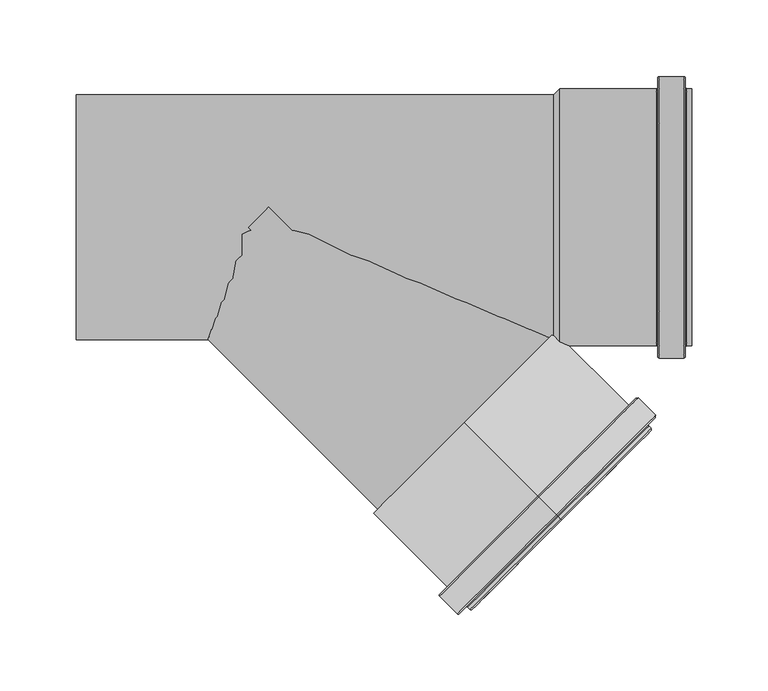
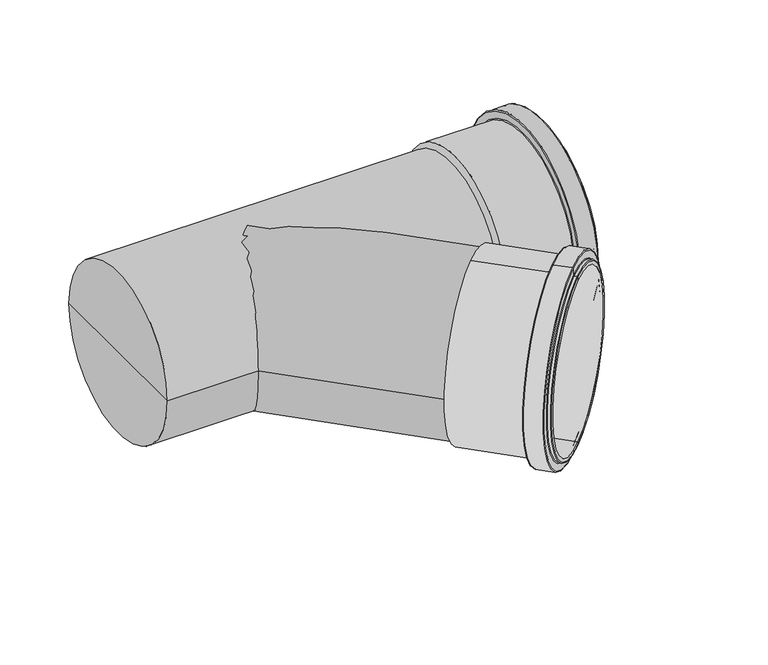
"""IFC4 building model written with IfcOpenShell, lengths in millimetres: pipe fitting geometry, MarleyPlumbingAndDrainage_PipeFitting_dBlueEqualBranch_VTR : VTR-160-160-45D - 160mm - Blue."""

import ifcopenshell
import ifcopenshell.guid

model = None  # the IFC model being written
_history = None  # IfcOwnerHistory: only IFC2X3 demands one
_inside = {}  # id of a spatial element -> (the spatial element, [elements in it])
_under = {}  # id of a project, library or spatial element -> (it, [spatial elements below it])
_declared = {}  # id of a project -> (the project, [libraries it declares])
_typed = {}  # id of a type object -> (the type object, [elements of that type])
_made_of = {}  # id of a material, layer set ... -> (it, [elements and type objects made of it])


def new_model(schema):
    """Start an empty IFC model of exactly this schema.

    Asked for "IFC4X3", IfcOpenShell would pick the latest addendum, in which some entities
    have other attributes; the version numbers below select the first issue.
    IFC2X3 requires an IfcOwnerHistory on every rooted entity: one is made here for all.
    """
    global model, _history
    if schema == "IFC4X3":
        model = ifcopenshell.file(schema_version=(4, 3, 0, 0))
    else:
        model = ifcopenshell.file(schema=schema)
    _inside.clear()
    _under.clear()
    _declared.clear()
    _typed.clear()
    _made_of.clear()
    _history = None
    if model.schema == "IFC2X3":
        org = make("IfcOrganization", Name="unknown")
        user = make(
            "IfcPersonAndOrganization",
            ThePerson=make("IfcPerson", FamilyName="unknown"),
            TheOrganization=org,
        )
        app = make(
            "IfcApplication",
            ApplicationDeveloper=org,
            Version="unknown",
            ApplicationFullName="unknown",
            ApplicationIdentifier="unknown",
        )
        _history = make(
            "IfcOwnerHistory",
            OwningUser=user,
            OwningApplication=app,
            ChangeAction="ADDED",
            CreationDate=0,
        )
    return model


def make(cls, **values):
    """One entity of the class cls with the attributes given. An attribute that is None is left unset."""
    return model.create_entity(
        cls, **{name: value for name, value in values.items() if value is not None}
    )


def rooted(cls, **values):
    """An entity with a GlobalId (a new one), such as an element, a storey or a relation."""
    return make(cls, GlobalId=ifcopenshell.guid.new(), OwnerHistory=_history, **values)


def si_unit(unit_type, name, prefix=None):
    """IfcSIUnit, for example si_unit("LENGTHUNIT", "METRE", prefix="MILLI")."""
    return make("IfcSIUnit", UnitType=unit_type, Prefix=prefix, Name=name)


def assignment(units):
    """IfcUnitAssignment: the units of a project."""
    return None if units is None else make("IfcUnitAssignment", Units=units)


def point(xyz):
    """IfcCartesianPoint."""
    return None if xyz is None else make("IfcCartesianPoint", Coordinates=xyz)


def direction(xyz):
    """IfcDirection."""
    return None if xyz is None else make("IfcDirection", DirectionRatios=xyz)


def frame(location, z_axis=None, x_axis=None):
    """IfcAxis2Placement3D, a coordinate frame: its origin and axes. An axis left out is left unset."""
    return make(
        "IfcAxis2Placement3D",
        Location=point(location),
        Axis=direction(z_axis),
        RefDirection=direction(x_axis),
    )


def frame_2d(location, x_axis=None):
    """IfcAxis2Placement2D, a coordinate frame in the plane: its origin and x axis."""
    return make(
        "IfcAxis2Placement2D", Location=point(location), RefDirection=direction(x_axis)
    )


def origin():
    """The frame at (0, 0, 0) with its axes left unset."""
    return frame((0.0, 0.0, 0.0))


def origin_2d():
    """The frame at (0, 0) in the plane with its x axis left unset."""
    return frame_2d((0.0, 0.0))


def place(relative_to, where):
    """IfcLocalPlacement: puts the frame where relative to a parent placement (None: the world)."""
    return make(
        "IfcLocalPlacement", PlacementRelTo=relative_to, RelativePlacement=where
    )


def context(
    kind, dimensions, precision=None, world=None, true_north=None, identifier=None
):
    """IfcGeometricRepresentationContext, for example the 3D "Model" context."""
    return make(
        "IfcGeometricRepresentationContext",
        ContextIdentifier=identifier,
        ContextType=kind,
        CoordinateSpaceDimension=dimensions,
        Precision=precision,
        WorldCoordinateSystem=world,
        TrueNorth=true_north,
    )


def project(units=None, contexts=None):
    """IfcProject with its units and contexts."""
    return rooted(
        "IfcProject",
        Name="project",
        RepresentationContexts=contexts,
        UnitsInContext=assignment(units),
    )


def spatial(cls, under=None, at=None, **own):
    """A site, building, storey or space (cls), placed at a placement, below another one or the project."""
    s = rooted(cls, ObjectPlacement=at, **own)
    if under is not None:
        _under.setdefault(under.id(), (under, []))[1].append(s)
    return s


def polyline(points):
    """IfcPolyline through the points."""
    return make("IfcPolyline", Points=[point(p) for p in points])


def circle_curve(where, radius):
    """IfcCircle in the frame where."""
    return make("IfcCircle", Position=where, Radius=radius)


def ellipse_curve(where, semi_axis1, semi_axis2):
    """IfcEllipse in the frame where."""
    return make(
        "IfcEllipse", Position=where, SemiAxis1=semi_axis1, SemiAxis2=semi_axis2
    )


def trimmed(basis, trim1, trim2, sense, master):
    """IfcTrimmedCurve: the piece of a basis curve between two trims."""
    return make(
        "IfcTrimmedCurve",
        BasisCurve=basis,
        Trim1=trim1,
        Trim2=trim2,
        SenseAgreement=sense,
        MasterRepresentation=master,
    )


def segment(curve, same_sense, transition):
    """IfcCompositeCurveSegment."""
    return make(
        "IfcCompositeCurveSegment",
        Transition=transition,
        SameSense=same_sense,
        ParentCurve=curve,
    )


def composite_curve(segments, self_intersect=None):
    """IfcCompositeCurve: segments joined end to end."""
    return make("IfcCompositeCurve", Segments=segments, SelfIntersect=self_intersect)


def outline(outer, holes=None, kind="AREA"):
    """IfcArbitraryClosedProfileDef: a profile drawn as a closed curve; with holes, ...WithVoids."""
    if holes is None:
        return make("IfcArbitraryClosedProfileDef", ProfileType=kind, OuterCurve=outer)
    return make(
        "IfcArbitraryProfileDefWithVoids",
        ProfileType=kind,
        OuterCurve=outer,
        InnerCurves=holes,
    )


def extrude(swept, where, along, depth):
    """IfcExtrudedAreaSolid: the profile swept, set in the frame where, extruded along a direction by depth."""
    return make(
        "IfcExtrudedAreaSolid",
        SweptArea=swept,
        Position=where,
        ExtrudedDirection=direction(along),
        Depth=depth,
    )


def shape(context_of_items, identifier, shape_type, items):
    """IfcShapeRepresentation: the items that make up one representation, for example the "Body"."""
    return make(
        "IfcShapeRepresentation",
        ContextOfItems=context_of_items,
        RepresentationIdentifier=identifier,
        RepresentationType=shape_type,
        Items=items,
    )


def source(mapping_origin, context_of_items, identifier, shape_type, items):
    """IfcRepresentationMap: a shape defined once, which mapped items show again and again."""
    return make(
        "IfcRepresentationMap",
        MappingOrigin=mapping_origin,
        MappedRepresentation=shape(context_of_items, identifier, shape_type, items),
    )


def transform(
    local_origin,
    x_axis=None,
    y_axis=None,
    z_axis=None,
    scale=None,
    scale2=None,
    scale3=None,
    uniform=True,
):
    """IfcCartesianTransformationOperator3D, or its non-uniform kind. x_axis, y_axis, z_axis: its Axis1, 2, 3."""
    if uniform:
        return make(
            "IfcCartesianTransformationOperator3D",
            Axis1=direction(x_axis),
            Axis2=direction(y_axis),
            LocalOrigin=point(local_origin),
            Scale=scale,
            Axis3=direction(z_axis),
        )
    return make(
        "IfcCartesianTransformationOperator3DnonUniform",
        Axis1=direction(x_axis),
        Axis2=direction(y_axis),
        LocalOrigin=point(local_origin),
        Scale=scale,
        Axis3=direction(z_axis),
        Scale2=scale2,
        Scale3=scale3,
    )


def mapped(mapping_source, mapping_target):
    """IfcMappedItem: shows the shape of a source again, moved by a transform."""
    return make(
        "IfcMappedItem", MappingSource=mapping_source, MappingTarget=mapping_target
    )


def made_of(thing, what):
    """Note that an element or type object is made of a material, layer set ...; save() writes the relation."""
    if what is not None:
        _made_of.setdefault(what.id(), (what, []))[1].append(thing)
    return thing


def element(
    cls,
    number,
    at=None,
    inside=None,
    cuts=None,
    type_object=None,
    material=None,
    context=None,
    identifier="Body",
    shape_type=None,
    held_by="IfcProductDefinitionShape",
    body=None,
    shapes=None,
    **own,
):
    """One element of the class cls, such as IfcWall. Its Tag is "e" and its number.

    at: its placement. inside: the storey or other place that contains it. cuts: it is an
    opening in that element (IfcRelVoidsElement). A single representation is given by context,
    identifier, shape_type and body (its items); several are given by shapes. held_by: the class
    of the entity that holds the representations. save() writes the other relations.
    """
    e = rooted(cls, Tag="e%d" % number, ObjectPlacement=at, **own)
    if body is not None:
        shapes = [shape(context, identifier, shape_type, body)]
    if shapes is not None:
        e.Representation = make(held_by, Representations=shapes)
    if inside is not None:
        _inside.setdefault(inside.id(), (inside, []))[1].append(e)
    if cuts is not None:
        rooted(
            "IfcRelVoidsElement", RelatingBuildingElement=cuts, RelatedOpeningElement=e
        )
    if type_object is not None:
        _typed.setdefault(type_object.id(), (type_object, []))[1].append(e)
    return made_of(e, material)


def aggregate(whole, parts):
    """IfcRelAggregates: a whole, such as a stair, and the parts it consists of."""
    return rooted("IfcRelAggregates", RelatingObject=whole, RelatedObjects=parts)


def save(model, path):
    """Write the relations noted so far, then the file.

    IfcRelAggregates (storeys below a building ...), IfcRelContainedInSpatialStructure (elements
    in a storey), IfcRelDefinesByType, IfcRelAssociatesMaterial and IfcRelDeclares: one each for
    every whole, place, type object, material and project.
    """
    for whole, parts in _under.values():
        aggregate(whole, parts)
    for where, things in _inside.values():
        rooted(
            "IfcRelContainedInSpatialStructure",
            RelatedElements=things,
            RelatingStructure=where,
        )
    for kind, things in _typed.values():
        rooted("IfcRelDefinesByType", RelatedObjects=things, RelatingType=kind)
    for what, things in _made_of.values():
        rooted("IfcRelAssociatesMaterial", RelatedObjects=things, RelatingMaterial=what)
    for by, libraries in _declared.values():
        rooted("IfcRelDeclares", RelatingContext=by, RelatedDefinitions=libraries)
    model.write(path)


def plane_surface(at):
    """IfcPlane: the flat surface through the origin of the frame at, square to its z axis."""
    return make("IfcPlane", Position=at)


def cylinder_surface(at, radius):
    """IfcCylindricalSurface: all points at the distance radius from the z axis of the frame at."""
    return make("IfcCylindricalSurface", Position=at, Radius=radius)


def revolved_surface(curve, axis_point, axis_direction):
    """IfcSurfaceOfRevolution: the curve turned about the line through axis_point along axis_direction."""
    return make(
        "IfcSurfaceOfRevolution",
        SweptCurve=make("IfcArbitraryOpenProfileDef", ProfileType="CURVE", Curve=curve),
        AxisPosition=make("IfcAxis1Placement", Location=point(axis_point), Axis=direction(axis_direction)),
    )


def advanced_brep(points, edges, surfaces, faces):
    """IfcAdvancedBrep: a solid bounded by faces that lie on surfaces and meet in shared edges.

    An edge is (start, end): straight between two places in points (the first is 0);
    or (start, end, curve); or (start, end, curve, False) where it runs against its curve.
    A face is (place in surfaces, loops), or (place, loops, False) where it looks against
    its surface's normal. A loop lists edges by number (the first is 1), with a minus sign
    where the edge is run from its end to its start. The first loop is the outer one.
    """
    corners = [point(p) for p in points]
    vertices = [make("IfcVertexPoint", VertexGeometry=c) for c in corners]
    made = []
    for start, end, *more in edges:
        made.append(
            make(
                "IfcEdgeCurve",
                EdgeStart=vertices[start],
                EdgeEnd=vertices[end],
                EdgeGeometry=more[0] if more else make("IfcPolyline", Points=[corners[start], corners[end]]),
                SameSense=more[1] if len(more) > 1 else True,
            )
        )
    hull = []
    for where, loops, *sense in faces:
        bounds = []
        for j, loop in enumerate(loops):
            ring = [make("IfcOrientedEdge", EdgeElement=made[abs(k) - 1], Orientation=k > 0) for k in loop]
            bounds.append(
                make(
                    "IfcFaceOuterBound" if j == 0 else "IfcFaceBound",
                    Bound=make("IfcEdgeLoop", EdgeList=ring),
                    Orientation=True,
                )
            )
        hull.append(make("IfcAdvancedFace", Bounds=bounds, FaceSurface=surfaces[where], SameSense=sense[0] if sense else True))
    return make("IfcAdvancedBrep", Outer=make("IfcClosedShell", CfsFaces=hull))


def pipe_fitting_3ffe21c8(model_context):
    return source(origin(), model_context, "Body", "SolidModel", [
        advanced_brep(
        [(119.5249066, -134.3502884, -84.0), (119.5249066, -134.3502884, 84.0), (119.5249066, -134.3502884, 80.0), (119.5249066, -134.3502884, -80.0), (167.6081677, -182.4335495, -84.0), (167.6081677, -182.4335495, 84.0), (167.6081677, -182.4335495, -91.0), (167.6081677, -182.4335495, 91.0), (179.628983, -194.4543648, -92.0), (179.628983, -194.4543648, 92.0), (168.3152745, -183.1406563, 92.0), (168.3152745, -183.1406563, -92.0), (180.3360898, -195.1614716, -85.0), (180.3360898, -195.1614716, 85.0), (180.3360898, -195.1614716, 91.0), (180.3360898, -195.1614716, -91.0), (182.4574101, -197.282792, -84.0), (182.4574101, -197.282792, 84.0), (181.0431966, -195.8685784, 84.0), (181.0431966, -195.8685784, -84.0), (183.1645169, -197.9898987, -80.0), (183.1645169, -197.9898987, 80.0), (183.1645169, -197.9898987, 83.0), (183.1645169, -197.9898987, -83.0)],
        [
            (0, 1, circle_curve(frame((119.5249066, -134.3502884, 0.0), z_axis=(-0.7071067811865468, 0.7071067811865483, 0.0), x_axis=(0.0, 0.0, 1.0000000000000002)), 84.0)),
            (1, 2),
            (2, 3, circle_curve(frame((119.5249066, -134.3502884, 0.0), z_axis=(0.7071067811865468, -0.7071067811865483, 0.0), x_axis=(0.0, 0.0, 1.0000000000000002)), 80.0)),
            (3, 0),
            (1, 0, circle_curve(frame((119.5249066, -134.3502884, 0.0), z_axis=(-0.7071067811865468, 0.7071067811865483, 0.0), x_axis=(0.0, 0.0, 1.0000000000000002)), 84.0)),
            (3, 2, circle_curve(frame((119.5249066, -134.3502884, 0.0), z_axis=(0.7071067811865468, -0.7071067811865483, 0.0), x_axis=(0.0, 0.0, 1.0000000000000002)), 80.0)),
            (4, 5, circle_curve(frame((167.6081677, -182.4335495, 0.0), z_axis=(-0.7071067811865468, 0.7071067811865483, 0.0), x_axis=(0.0, 0.0, 1.0000000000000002)), 84.0)),
            (5, 1),
            (0, 4),
            (5, 4, circle_curve(frame((167.6081677, -182.4335495, 0.0), z_axis=(-0.7071067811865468, 0.7071067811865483, 0.0), x_axis=(0.0, 0.0, 1.0000000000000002)), 84.0)),
            (6, 7, circle_curve(frame((167.6081677, -182.4335495, 0.0), z_axis=(-0.7071067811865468, 0.7071067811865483, 0.0), x_axis=(0.0, 0.0, 1.0000000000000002)), 91.0)),
            (7, 5),
            (4, 6),
            (7, 6, circle_curve(frame((167.6081677, -182.4335495, 0.0), z_axis=(-0.7071067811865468, 0.7071067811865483, 0.0), x_axis=(0.0, 0.0, 1.0000000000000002)), 91.0)),
            (8, 9, circle_curve(frame((179.628983, -194.4543648, 0.0), z_axis=(-0.7071067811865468, 0.7071067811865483, 0.0), x_axis=(0.0, 0.0, 1.0000000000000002)), 92.0)),
            (9, 10),
            (10, 11, circle_curve(frame((168.3152745, -183.1406563, 0.0), z_axis=(0.7071067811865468, -0.7071067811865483, 0.0), x_axis=(0.0, 0.0, 1.0000000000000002)), 92.0)),
            (11, 8),
            (9, 8, circle_curve(frame((179.628983, -194.4543648, 0.0), z_axis=(-0.7071067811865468, 0.7071067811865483, 0.0), x_axis=(0.0, 0.0, 1.0000000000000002)), 92.0)),
            (11, 10, circle_curve(frame((168.3152745, -183.1406563, 0.0), z_axis=(0.7071067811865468, -0.7071067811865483, 0.0), x_axis=(0.0, 0.0, 1.0000000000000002)), 92.0)),
            (12, 13, circle_curve(frame((180.3360898, -195.1614716, 0.0), z_axis=(-0.7071067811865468, 0.7071067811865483, 0.0), x_axis=(0.0, 0.0, 1.0000000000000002)), 85.0)),
            (13, 14),
            (14, 15, circle_curve(frame((180.3360898, -195.1614716, 0.0), z_axis=(0.7071067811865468, -0.7071067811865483, 0.0), x_axis=(0.0, 0.0, 1.0000000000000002)), 91.0)),
            (15, 12),
            (13, 12, circle_curve(frame((180.3360898, -195.1614716, 0.0), z_axis=(-0.7071067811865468, 0.7071067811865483, 0.0), x_axis=(0.0, 0.0, 1.0000000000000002)), 85.0)),
            (15, 14, circle_curve(frame((180.3360898, -195.1614716, 0.0), z_axis=(0.7071067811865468, -0.7071067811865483, 0.0), x_axis=(0.0, 0.0, 1.0000000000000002)), 91.0)),
            (16, 17, circle_curve(frame((182.4574101, -197.282792, 0.0), z_axis=(-0.7071067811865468, 0.7071067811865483, 0.0), x_axis=(0.0, 0.0, 1.0000000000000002)), 84.0)),
            (17, 18),
            (18, 19, circle_curve(frame((181.0431966, -195.8685784, 0.0), z_axis=(0.7071067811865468, -0.7071067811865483, 0.0), x_axis=(0.0, 0.0, 1.0000000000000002)), 84.0)),
            (19, 16),
            (17, 16, circle_curve(frame((182.4574101, -197.282792, 0.0), z_axis=(-0.7071067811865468, 0.7071067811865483, 0.0), x_axis=(0.0, 0.0, 1.0000000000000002)), 84.0)),
            (19, 18, circle_curve(frame((181.0431966, -195.8685784, 0.0), z_axis=(0.7071067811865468, -0.7071067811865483, 0.0), x_axis=(0.0, 0.0, 1.0000000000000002)), 84.0)),
            (20, 21, circle_curve(frame((183.1645169, -197.9898987, 0.0), z_axis=(-0.7071067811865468, 0.7071067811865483, 0.0), x_axis=(0.0, 0.0, 1.0000000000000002)), 80.0)),
            (21, 22),
            (22, 23, circle_curve(frame((183.1645169, -197.9898987, 0.0), z_axis=(0.7071067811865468, -0.7071067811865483, 0.0), x_axis=(0.0, 0.0, 1.0000000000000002)), 83.0)),
            (23, 20),
            (21, 20, circle_curve(frame((183.1645169, -197.9898987, 0.0), z_axis=(-0.7071067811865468, 0.7071067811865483, 0.0), x_axis=(0.0, 0.0, 1.0000000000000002)), 80.0)),
            (23, 22, circle_curve(frame((183.1645169, -197.9898987, 0.0), z_axis=(0.7071067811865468, -0.7071067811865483, 0.0), x_axis=(0.0, 0.0, 1.0000000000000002)), 83.0)),
            (2, 21),
            (20, 3),
            (10, 7, circle_curve(frame((168.3152745, -183.1406563, 91.0), z_axis=(-0.7071067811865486, -0.707106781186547, 0.0), x_axis=(0.49999999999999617, -0.49999999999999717, 0.7071067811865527)), 1.0)),
            (6, 11, circle_curve(frame((168.3152745, -183.1406563, -91.0), z_axis=(-0.7071067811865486, -0.707106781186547, 0.0), x_axis=(0.5000000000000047, -0.5000000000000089, -0.7071067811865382)), 1.0)),
            (14, 9, circle_curve(frame((179.628983, -194.4543648, 91.0), z_axis=(-0.7071067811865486, -0.707106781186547, 0.0), x_axis=(0.49999999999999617, -0.49999999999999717, 0.7071067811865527)), 1.0)),
            (8, 15, circle_curve(frame((179.628983, -194.4543648, -91.0), z_axis=(-0.7071067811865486, -0.707106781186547, 0.0), x_axis=(0.5000000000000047, -0.5000000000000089, -0.7071067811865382)), 1.0)),
            (18, 13, circle_curve(frame((181.0431966, -195.8685784, 85.0), z_axis=(0.7071067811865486, 0.707106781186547, 0.0), x_axis=(0.49999999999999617, -0.49999999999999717, 0.7071067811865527)), 1.0)),
            (12, 19, circle_curve(frame((181.0431966, -195.8685784, -85.0), z_axis=(0.7071067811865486, 0.707106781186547, 0.0), x_axis=(0.5000000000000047, -0.5000000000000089, -0.7071067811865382)), 1.0)),
            (22, 17, circle_curve(frame((182.4574101, -197.282792, 83.0), z_axis=(-0.7071067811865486, -0.707106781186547, 0.0), x_axis=(0.49999999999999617, -0.49999999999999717, 0.7071067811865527)), 1.0)),
            (16, 23, circle_curve(frame((182.4574101, -197.282792, -83.0), z_axis=(-0.7071067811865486, -0.707106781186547, 0.0), x_axis=(0.5000000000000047, -0.5000000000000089, -0.7071067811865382)), 1.0)),
        ],
        [
            plane_surface(frame((119.5249066, -134.3502884, 0.0), z_axis=(-0.7071067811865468, 0.7071067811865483, 0.0), x_axis=(0.0, 0.0, 1.0))),
            cylinder_surface(frame((235.4904187, -250.3158005, 0.0), z_axis=(0.7071067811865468, -0.7071067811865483, 0.0), x_axis=(0.0, 0.0, 1.0000000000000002)), 84.0),
            plane_surface(frame((167.6081677, -182.4335495, 0.0), z_axis=(-0.7071067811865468, 0.7071067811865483, 0.0), x_axis=(0.0, 0.0, 1.0))),
            cylinder_surface(frame((235.4904187, -250.3158005, 0.0), z_axis=(0.7071067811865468, -0.7071067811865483, 0.0), x_axis=(0.0, 0.0, 1.0000000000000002)), 92.0),
            plane_surface(frame((180.3360898, -195.1614716, 0.0), z_axis=(0.7071067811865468, -0.7071067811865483, 0.0), x_axis=(0.0, 0.0, 1.0))),
            plane_surface(frame((183.1645169, -197.9898987, 0.0), z_axis=(0.7071067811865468, -0.7071067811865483, 0.0), x_axis=(0.0, 0.0, 1.0))),
            revolved_surface(polyline([(183.16451690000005, -197.98989869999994, 80.00000000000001), (119.52490660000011, -134.35028839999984, 80.00000000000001)]), (235.4904187, -250.3158005, 0.0), (0.7071067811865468, -0.7071067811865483, 0.0)),
            revolved_surface(trimmed(ellipse_curve(frame((168.3152745, -183.1406563, 91.0), z_axis=(0.7071067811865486, 0.707106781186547, 0.0), x_axis=(0.49999999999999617, -0.49999999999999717, 0.7071067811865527)), 1.0, 1.0), [point((167.6081677, -182.4335495, 91.0))], [point((168.3152745, -183.1406563, 92.0))], True, "CARTESIAN"), (235.4904187, -250.3158005, 0.0), (0.7071067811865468, -0.7071067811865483, 0.0)),
            revolved_surface(trimmed(ellipse_curve(frame((168.3152745, -183.1406563, 91.0), z_axis=(0.7071067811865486, 0.707106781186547, 0.0), x_axis=(0.49999999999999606, -0.49999999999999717, 0.7071067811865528)), 1.0, 1.0), [point((167.6081677, -182.4335495, 91.0))], [point((168.3152745, -183.1406563, 92.0))], True, "CARTESIAN"), (235.4904187, -250.3158005, 0.0), (0.7071067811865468, -0.7071067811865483, 0.0)),
            revolved_surface(trimmed(ellipse_curve(frame((179.628983, -194.4543648, 91.0), z_axis=(0.7071067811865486, 0.707106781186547, 0.0), x_axis=(0.49999999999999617, -0.49999999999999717, 0.7071067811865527)), 1.0, 1.0), [point((179.628983, -194.4543648, 92.0))], [point((180.3360898, -195.1614716, 91.0))], True, "CARTESIAN"), (235.4904187, -250.3158005, 0.0), (0.7071067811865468, -0.7071067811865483, 0.0)),
            revolved_surface(trimmed(ellipse_curve(frame((179.628983, -194.4543648, 91.0), z_axis=(0.7071067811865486, 0.707106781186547, 0.0), x_axis=(0.49999999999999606, -0.49999999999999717, 0.7071067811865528)), 1.0, 1.0), [point((179.628983, -194.4543648, 92.0))], [point((180.3360898, -195.1614716, 91.0))], True, "CARTESIAN"), (235.4904187, -250.3158005, 0.0), (0.7071067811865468, -0.7071067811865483, 0.0)),
            revolved_surface(trimmed(ellipse_curve(frame((181.0431966, -195.8685784, 85.0), z_axis=(-0.7071067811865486, -0.707106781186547, 0.0), x_axis=(0.49999999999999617, -0.49999999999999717, 0.7071067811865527)), 1.0, 1.0), [point((180.3360898, -195.1614716, 85.0))], [point((181.0431966, -195.8685784, 84.0))], True, "CARTESIAN"), (235.4904187, -250.3158005, 0.0), (0.7071067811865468, -0.7071067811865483, 0.0)),
            revolved_surface(trimmed(ellipse_curve(frame((181.0431966, -195.8685784, 85.0), z_axis=(-0.7071067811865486, -0.707106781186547, 0.0), x_axis=(0.49999999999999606, -0.49999999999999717, 0.7071067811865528)), 1.0, 1.0), [point((180.3360898, -195.1614716, 85.0))], [point((181.0431966, -195.8685784, 84.0))], True, "CARTESIAN"), (235.4904187, -250.3158005, 0.0), (0.7071067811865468, -0.7071067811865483, 0.0)),
            revolved_surface(trimmed(ellipse_curve(frame((182.4574101, -197.282792, 83.0), z_axis=(0.7071067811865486, 0.707106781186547, 0.0), x_axis=(0.49999999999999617, -0.49999999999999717, 0.7071067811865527)), 1.0, 1.0), [point((182.4574101, -197.282792, 84.0))], [point((183.1645169, -197.9898987, 83.0))], True, "CARTESIAN"), (235.4904187, -250.3158005, 0.0), (0.7071067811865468, -0.7071067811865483, 0.0)),
            revolved_surface(trimmed(ellipse_curve(frame((182.4574101, -197.282792, 83.0), z_axis=(0.7071067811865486, 0.707106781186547, 0.0), x_axis=(0.49999999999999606, -0.49999999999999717, 0.7071067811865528)), 1.0, 1.0), [point((182.4574101, -197.282792, 84.0))], [point((183.1645169, -197.9898987, 83.0))], True, "CARTESIAN"), (235.4904187, -250.3158005, 0.0), (0.7071067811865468, -0.7071067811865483, 0.0)),
        ],
        [
            (0, [[1, 2, 3, 4]]),
            (0, [[5, -4, 6, -2]]),
            (1, [[7, 8, -1, 9]]),
            (1, [[10, -9, -5, -8]]),
            (2, [[11, 12, -7, 13]]),
            (2, [[14, -13, -10, -12]]),
            (3, [[15, 16, 17, 18]]),
            (3, [[19, -18, 20, -16]]),
            (4, [[21, 22, 23, 24]]),
            (4, [[25, -24, 26, -22]]),
            (1, [[27, 28, 29, 30]]),
            (1, [[31, -30, 32, -28]]),
            (5, [[33, 34, 35, 36]]),
            (5, [[37, -36, 38, -34]]),
            (6, [[-3, 39, -33, 40]]),
            (6, [[-6, -40, -37, -39]]),
            (7, [[-17, 41, -11, 42]]),
            (8, [[-20, -42, -14, -41]]),
            (9, [[-23, 43, -15, 44]]),
            (10, [[-26, -44, -19, -43]]),
            (11, [[-29, 45, -21, 46]]),
            (12, [[-32, -46, -25, -45]]),
            (13, [[-35, 47, -27, 48]]),
            (14, [[-38, -48, -31, -47]]),
        ],
    ),
        extrude(outline(composite_curve([segment(trimmed(circle_curve(origin_2d(), 80.0), [point((0.0, -80.0))], [point((0.0, 80.0))], False, "CARTESIAN"), True, "CONTINUOUS"), segment(trimmed(circle_curve(origin_2d(), 80.0), [point((0.0, 80.0))], [point((0.0, -80.0))], False, "CARTESIAN"), True, "CONTINUOUS")], self_intersect=False)), frame((119.5249066, -134.3502884, 0.0), z_axis=(-0.7071067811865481, 0.707106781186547, 0.0), x_axis=(0.0, 0.0, 1.0)), (0.0, 0.0, 1.0), 190.0),
        advanced_brep(
        [(265.1746182, -84.0, 0.0), (265.1746182, 84.0, 0.0), (268.1746182, 84.0, 0.0), (268.1746182, -84.0, 0.0), (264.1746182, -91.0, 0.0), (264.1746182, 91.0, 0.0), (264.1746182, 85.0, 0.0), (264.1746182, -85.0, 0.0), (247.1746182, -92.0, 0.0), (247.1746182, 92.0, 0.0), (263.1746182, 92.0, 0.0), (263.1746182, -92.0, 0.0), (246.1746182, -85.0, 0.0), (246.1746182, 85.0, 0.0), (246.1746182, 91.0, 0.0), (246.1746182, -91.0, 0.0), (182.1746182, -84.0, 0.0), (182.1746182, 84.0, 0.0), (245.1746182, 84.0, 0.0), (245.1746182, -84.0, 0.0), (178.1746182, -80.0, 0.0), (178.1746182, 80.0, 0.0), (-133.8253818, -80.0, 0.0), (-133.8253818, 80.0, 0.0), (-133.8253818, 0.0, 0.0), (182.1746182, -80.0, 0.0), (182.1746182, 80.0, 0.0), (182.1746182, 0.0, 0.0), (268.1746182, -80.0, 0.0), (268.1746182, 80.0, 0.0)],
        [
            (0, 1, circle_curve(frame((265.1746182, 0.0, 0.0), z_axis=(1.0, 0.0, 0.0), x_axis=(0.0, 1.0, 0.0)), 84.0)),
            (1, 2),
            (2, 3, circle_curve(frame((268.1746182, 0.0, 0.0), z_axis=(-1.0, 0.0, 0.0), x_axis=(0.0, 1.0, 0.0)), 84.0)),
            (3, 0),
            (1, 0, circle_curve(frame((265.1746182, 0.0, 0.0), z_axis=(1.0, 0.0, 0.0), x_axis=(0.0, 1.0, 0.0)), 84.0)),
            (3, 2, circle_curve(frame((268.1746182, 0.0, 0.0), z_axis=(-1.0, 0.0, 0.0), x_axis=(0.0, 1.0, 0.0)), 84.0)),
            (4, 5, circle_curve(frame((264.1746182, 0.0, 0.0), z_axis=(1.0, 0.0, 0.0), x_axis=(0.0, 1.0, 0.0)), 91.0)),
            (5, 6),
            (6, 7, circle_curve(frame((264.1746182, 0.0, 0.0), z_axis=(-1.0, 0.0, 0.0), x_axis=(0.0, 1.0, 0.0)), 85.0)),
            (7, 4),
            (5, 4, circle_curve(frame((264.1746182, 0.0, 0.0), z_axis=(1.0, 0.0, 0.0), x_axis=(0.0, 1.0, 0.0)), 91.0)),
            (7, 6, circle_curve(frame((264.1746182, 0.0, 0.0), z_axis=(-1.0, 0.0, 0.0), x_axis=(0.0, 1.0, 0.0)), 85.0)),
            (8, 9, circle_curve(frame((247.1746182, 0.0, 0.0), z_axis=(1.0, 0.0, 0.0), x_axis=(0.0, 1.0, 0.0)), 92.0)),
            (9, 10),
            (10, 11, circle_curve(frame((263.1746182, 0.0, 0.0), z_axis=(-1.0, 0.0, 0.0), x_axis=(0.0, 1.0, 0.0)), 92.0)),
            (11, 8),
            (9, 8, circle_curve(frame((247.1746182, 0.0, 0.0), z_axis=(1.0, 0.0, 0.0), x_axis=(0.0, 1.0, 0.0)), 92.0)),
            (11, 10, circle_curve(frame((263.1746182, 0.0, 0.0), z_axis=(-1.0, 0.0, 0.0), x_axis=(0.0, 1.0, 0.0)), 92.0)),
            (12, 13, circle_curve(frame((246.1746182, 0.0, 0.0), z_axis=(1.0, 0.0, 0.0), x_axis=(0.0, 1.0, 0.0)), 85.0)),
            (13, 14),
            (14, 15, circle_curve(frame((246.1746182, 0.0, 0.0), z_axis=(-1.0, 0.0, 0.0), x_axis=(0.0, 1.0, 0.0)), 91.0)),
            (15, 12),
            (13, 12, circle_curve(frame((246.1746182, 0.0, 0.0), z_axis=(1.0, 0.0, 0.0), x_axis=(0.0, 1.0, 0.0)), 85.0)),
            (15, 14, circle_curve(frame((246.1746182, 0.0, 0.0), z_axis=(-1.0, 0.0, 0.0), x_axis=(0.0, 1.0, 0.0)), 91.0)),
            (16, 17, circle_curve(frame((182.1746182, 0.0, 0.0), z_axis=(1.0, 0.0, 0.0), x_axis=(0.0, 1.0, 0.0)), 84.0)),
            (17, 18),
            (18, 19, circle_curve(frame((245.1746182, 0.0, 0.0), z_axis=(-1.0, 0.0, 0.0), x_axis=(0.0, 1.0, 0.0)), 84.0)),
            (19, 16),
            (17, 16, circle_curve(frame((182.1746182, 0.0, 0.0), z_axis=(1.0, 0.0, 0.0), x_axis=(0.0, 1.0, 0.0)), 84.0)),
            (19, 18, circle_curve(frame((245.1746182, 0.0, 0.0), z_axis=(-1.0, 0.0, 0.0), x_axis=(0.0, 1.0, 0.0)), 84.0)),
            (20, 21, circle_curve(frame((178.1746182, 0.0, 0.0), z_axis=(1.0, 0.0, 0.0), x_axis=(0.0, 1.0, 0.0)), 80.0)),
            (21, 17),
            (16, 20),
            (21, 20, circle_curve(frame((178.1746182, 0.0, 0.0), z_axis=(1.0, 0.0, 0.0), x_axis=(0.0, 1.0, 0.0)), 80.0)),
            (22, 23, circle_curve(frame((-133.8253818, 0.0, 0.0), z_axis=(1.0, 0.0, 0.0), x_axis=(0.0, 1.0, 0.0)), 80.0)),
            (23, 21),
            (20, 22),
            (23, 22, circle_curve(frame((-133.8253818, 0.0, 0.0), z_axis=(1.0, 0.0, 0.0), x_axis=(0.0, 1.0, 0.0)), 80.0)),
            (24, 23),
            (22, 24),
            (25, 26, circle_curve(frame((182.1746182, 0.0, 0.0), z_axis=(1.0, 0.0, 0.0), x_axis=(0.0, 1.0, 0.0)), 80.0)),
            (26, 27),
            (27, 25),
            (26, 25, circle_curve(frame((182.1746182, 0.0, 0.0), z_axis=(1.0, 0.0, 0.0), x_axis=(0.0, 1.0, 0.0)), 80.0)),
            (28, 29, circle_curve(frame((268.1746182, 0.0, 0.0), z_axis=(1.0, 0.0, 0.0), x_axis=(0.0, 1.0, 0.0)), 80.0)),
            (29, 26),
            (25, 28),
            (29, 28, circle_curve(frame((268.1746182, 0.0, 0.0), z_axis=(1.0, 0.0, 0.0), x_axis=(0.0, 1.0, 0.0)), 80.0)),
            (2, 29),
            (28, 3),
            (6, 1, circle_curve(frame((265.1746182, 85.0, 0.0), z_axis=(0.0, 0.0, 1.0), x_axis=(1.0, 0.0, 0.0)), 1.0)),
            (0, 7, circle_curve(frame((265.1746182, -85.0, 0.0), z_axis=(0.0, 0.0, 1.0), x_axis=(1.0, 0.0, 0.0)), 1.0)),
            (10, 5, circle_curve(frame((263.1746182, 91.0, 0.0), z_axis=(0.0, 0.0, -1.0), x_axis=(1.0, 0.0, 0.0)), 1.0)),
            (4, 11, circle_curve(frame((263.1746182, -91.0, 0.0), z_axis=(0.0, 0.0, -1.0), x_axis=(1.0, 0.0, 0.0)), 1.0)),
            (14, 9, circle_curve(frame((247.1746182, 91.0, 0.0), z_axis=(0.0, 0.0, -1.0), x_axis=(1.0, 0.0, 0.0)), 1.0)),
            (8, 15, circle_curve(frame((247.1746182, -91.0, 0.0), z_axis=(0.0, 0.0, -1.0), x_axis=(1.0, 0.0, 0.0)), 1.0)),
            (18, 13, circle_curve(frame((245.1746182, 85.0, 0.0), z_axis=(0.0, 0.0, 1.0), x_axis=(1.0, 0.0, 0.0)), 1.0)),
            (12, 19, circle_curve(frame((245.1746182, -85.0, 0.0), z_axis=(0.0, 0.0, 1.0), x_axis=(1.0, 0.0, 0.0)), 1.0)),
        ],
        [
            cylinder_surface(frame((2082.0, 0.0, 0.0), z_axis=(-1.0, 0.0, 0.0), x_axis=(0.0, 1.0, 0.0)), 84.0),
            plane_surface(frame((264.1746182, 0.0, 0.0), z_axis=(1.0, 0.0, 0.0), x_axis=(0.0, 1.0, 0.0))),
            cylinder_surface(frame((2082.0, 0.0, 0.0), z_axis=(-1.0, 0.0, 0.0), x_axis=(0.0, 1.0, 0.0)), 92.0),
            plane_surface(frame((246.1746182, 0.0, 0.0), z_axis=(-1.0, 0.0, 0.0), x_axis=(0.0, 1.0, 0.0))),
            revolved_surface(polyline([(182.1746182, 84.0, 0.0), (178.1746182, 80.0, 0.0)]), (2082.0, 0.0, 0.0), (-1.0, 0.0, 0.0)),
            cylinder_surface(frame((2082.0, 0.0, 0.0), z_axis=(-1.0, 0.0, 0.0), x_axis=(0.0, 1.0, 0.0)), 80.0),
            plane_surface(frame((-133.8253818, 0.0, 0.0), z_axis=(-1.0, 0.0, 0.0), x_axis=(0.0, 1.0, 0.0))),
            plane_surface(frame((182.1746182, 0.0, 0.0), z_axis=(1.0, 0.0, 0.0), x_axis=(0.0, 1.0, 0.0))),
            revolved_surface(polyline([(182.17461819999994, 80.0, 0.0), (268.17461819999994, 80.0, 0.0)]), (2082.0, 0.0, 0.0), (-1.0, 0.0, 0.0)),
            plane_surface(frame((268.1746182, 0.0, 0.0), z_axis=(1.0, 0.0, 0.0), x_axis=(0.0, 1.0, 0.0))),
            revolved_surface(trimmed(ellipse_curve(frame((265.1746182, 85.0, 0.0), z_axis=(0.0, 0.0, -1.0), x_axis=(1.0, 0.0, 0.0)), 1.0, 1.0), [point((265.1746182, 84.0, 0.0))], [point((264.1746182, 85.0, 0.0))], True, "CARTESIAN"), (2082.0, 0.0, 0.0), (-1.0, 0.0, 0.0)),
            revolved_surface(trimmed(ellipse_curve(frame((263.1746182, 91.0, 0.0), z_axis=(0.0, 0.0, 1.0), x_axis=(1.0, 0.0, 0.0)), 1.0, 1.0), [point((264.1746182, 91.0, 0.0))], [point((263.1746182, 92.0, 0.0))], True, "CARTESIAN"), (2082.0, 0.0, 0.0), (-1.0, 0.0, 0.0)),
            revolved_surface(trimmed(ellipse_curve(frame((247.1746182, 91.0, 0.0), z_axis=(0.0, 0.0, 1.0), x_axis=(1.0, 0.0, 0.0)), 1.0, 1.0), [point((247.1746182, 92.0, 0.0))], [point((246.1746182, 91.0, 0.0))], True, "CARTESIAN"), (2082.0, 0.0, 0.0), (-1.0, 0.0, 0.0)),
            revolved_surface(trimmed(ellipse_curve(frame((245.1746182, 85.0, 0.0), z_axis=(0.0, 0.0, -1.0), x_axis=(1.0, 0.0, 0.0)), 1.0, 1.0), [point((246.1746182, 85.0, 0.0))], [point((245.1746182, 84.0, 0.0))], True, "CARTESIAN"), (2082.0, 0.0, 0.0), (-1.0, 0.0, 0.0)),
        ],
        [
            (0, [[1, 2, 3, 4]]),
            (0, [[5, -4, 6, -2]]),
            (1, [[7, 8, 9, 10]]),
            (1, [[11, -10, 12, -8]]),
            (2, [[13, 14, 15, 16]]),
            (2, [[17, -16, 18, -14]]),
            (3, [[19, 20, 21, 22]]),
            (3, [[23, -22, 24, -20]]),
            (0, [[25, 26, 27, 28]]),
            (0, [[29, -28, 30, -26]]),
            (4, [[31, 32, -25, 33]]),
            (4, [[34, -33, -29, -32]]),
            (5, [[35, 36, -31, 37]]),
            (5, [[38, -37, -34, -36]]),
            (6, [[39, -35, 40]]),
            (6, [[-40, -38, -39]]),
            (7, [[41, 42, 43]]),
            (7, [[44, -43, -42]]),
            (8, [[45, 46, -41, 47]]),
            (8, [[48, -47, -44, -46]]),
            (9, [[-3, 49, -45, 50]]),
            (9, [[-6, -50, -48, -49]]),
            (10, [[-9, 51, -1, 52]]),
            (10, [[-12, -52, -5, -51]]),
            (11, [[-15, 53, -7, 54]]),
            (11, [[-18, -54, -11, -53]]),
            (12, [[-21, 55, -13, 56]]),
            (12, [[-24, -56, -17, -55]]),
            (13, [[-27, 57, -19, 58]]),
            (13, [[-30, -58, -23, -57]]),
        ],
    ),
    ])


if __name__ == "__main__":
    model = new_model("IFC4")
    model_context = context("Model", 3, world=origin())
    ifc_project = project(units=[si_unit("LENGTHUNIT", "METRE", prefix="MILLI")], contexts=[model_context])
    site = spatial("IfcSite", under=ifc_project)
    building = spatial("IfcBuilding", under=site)
    placement = place(None, origin())
    pipe_fitting_shape = pipe_fitting_3ffe21c8(model_context)
    element("IfcPipeFitting", 1, ObjectType="MarleyPlumbingAndDrainage_PipeFitting_dBlueEqualBranch_VTR : VTR-160-160-45D - 160mm - Blue", at=placement, inside=building, context=model_context, shape_type="MappedRepresentation", body=[
        mapped(pipe_fitting_shape, transform((0.0, 0.0, 0.0), x_axis=(1.0, 0.0, 0.0), y_axis=(0.0, 1.0, 0.0), z_axis=(0.0, 0.0, 1.0))),
    ])
    save(model, "model.ifc")
